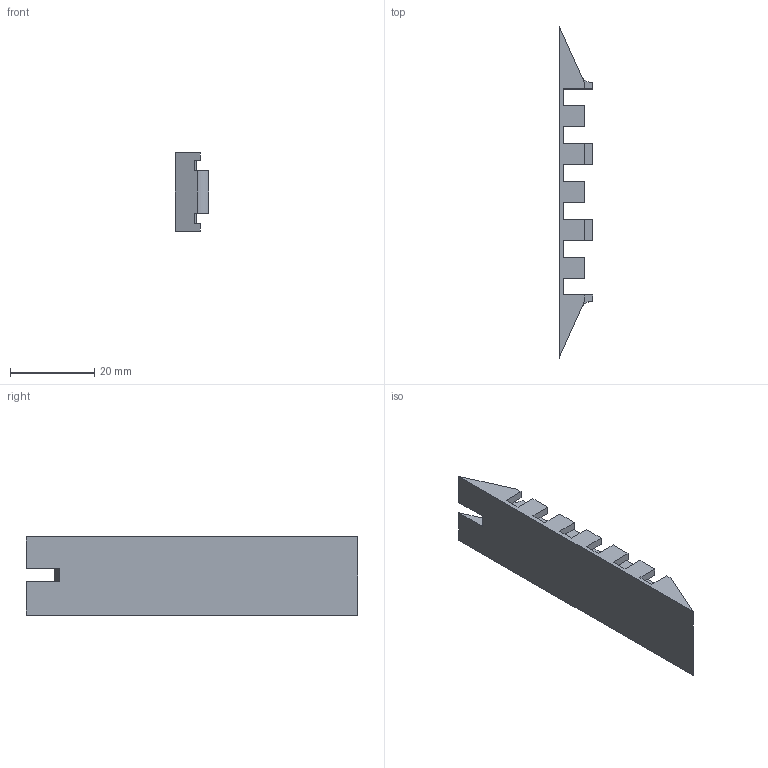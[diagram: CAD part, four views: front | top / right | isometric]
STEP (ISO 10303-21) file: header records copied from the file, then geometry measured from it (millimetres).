
FILE_DESCRIPTION(('STEP AP203'), '1');
FILE_NAME('ïîä ðîëèêè', '', ('UNSPECIFIED'), ('UNSPECIFIED'), 'ASCON STEP Converter 1.3', 'ASCON Math Kernel', '');
FILE_SCHEMA(('CONFIG_CONTROL_DESIGN'));
Length unit declared in the file: millimetre
Bounding box: 8 x 78.95 x 18.6 mm (x, y, z)
Volume: 4856.4 mm3; surface area: 5069.9 mm2
Topology: 1 solids, 1 shells, 97 faces, 285 edges, 190 vertices
Faces by surface type: plane 95, cylinder 2
Entity records: 3983 total; most frequent: CARTESIAN_POINT 573, ORIENTED_EDGE 570, DIRECTION 485, EDGE_CURVE 285, LINE 281, VECTOR 281, VERTEX_POINT 190, AXIS2_PLACEMENT_3D 102
